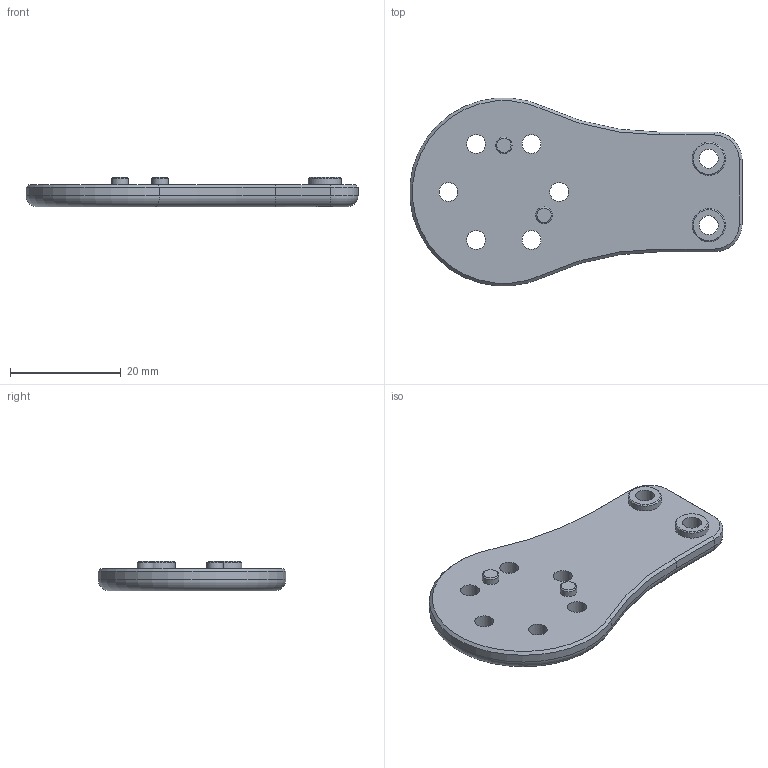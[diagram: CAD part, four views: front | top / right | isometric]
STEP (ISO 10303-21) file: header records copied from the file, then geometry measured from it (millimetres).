
FILE_DESCRIPTION (( 'STEP AP203' ), '1' );
FILE_NAME ('M-JXB2-137064-B.STEP', '2025-11-06T06:50:06', ( '' ), ( '' ), 'SwSTEP 2.0', 'SolidWorks 2019', '' );
FILE_SCHEMA (( 'CONFIG_CONTROL_DESIGN' ));
Length unit declared in the file: millimetre
Products named in the file (1): M-JXB2-137064-B
Bounding box: 59.94 x 33.88 x 5.3 mm (x, y, z)
Volume: 5534.5 mm3; surface area: 3719.5 mm2
Topology: 1 solids, 1 shells, 54 faces, 124 edges, 74 vertices
Faces by surface type: cylinder 20, cone 17, plane 12, torus 5
Full cylindrical faces by diameter (mm): 3 x2, 3.4 x8, 6 x2
Entity records: 1497 total; most frequent: DIRECTION 266, CARTESIAN_POINT 249, ORIENTED_EDGE 192, AXIS2_PLACEMENT_3D 119, EDGE_LOOP 96, EDGE_CURVE 96, VERTEX_POINT 70, FACE_OUTER_BOUND 66
